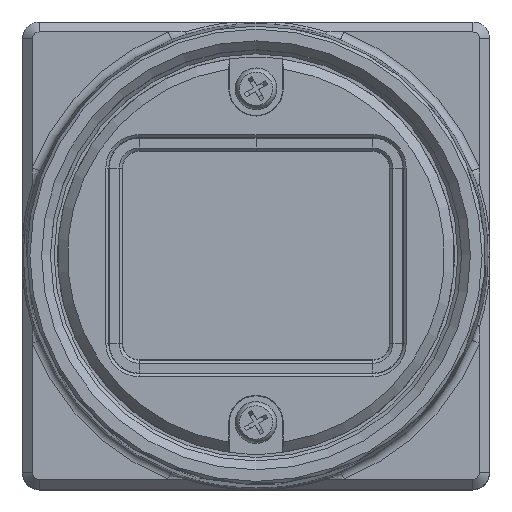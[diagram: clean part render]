
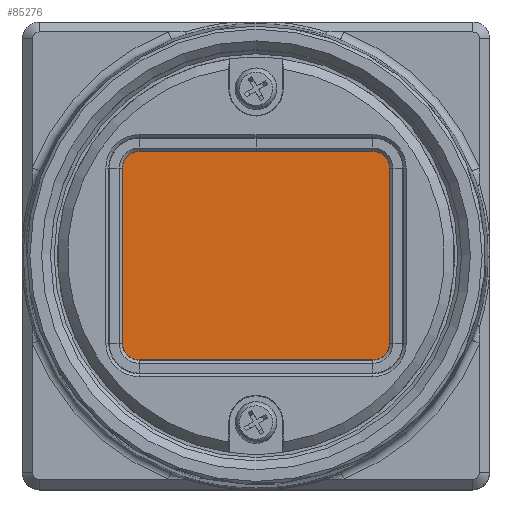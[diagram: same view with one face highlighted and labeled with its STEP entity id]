
A CAD part, top view. The second image highlights one B-rep face of the part: STEP entity #85276.
In plain terms, the highlighted planar face has unit normal (0, 0, 1).
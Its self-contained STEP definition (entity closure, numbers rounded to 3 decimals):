
#205 = VECTOR ( 'NONE', #88995, 1000. ) ;
#11568 = ORIENTED_EDGE ( 'NONE', *, *, #105787, .T. ) ;
#17205 = VECTOR ( 'NONE', #84387, 1000. ) ;
#17221 = DIRECTION ( 'NONE',  ( 0., 0., -1. ) ) ;
#19949 = LINE ( 'NONE', #115892, #118050 ) ;
#25481 = CARTESIAN_POINT ( 'NONE',  ( 9., -7.25, 6. ) ) ;
#28578 = CARTESIAN_POINT ( 'NONE',  ( 0., 0., 6. ) ) ;
#29140 = AXIS2_PLACEMENT_3D ( 'NONE', #28578, #17221, #93424 ) ;
#38221 = DIRECTION ( 'NONE',  ( 0., 1., 0. ) ) ;
#39381 = CARTESIAN_POINT ( 'NONE',  ( -9., -7.25, 6. ) ) ;
#46010 = LINE ( 'NONE', #39381, #17205 ) ;
#46745 = ORIENTED_EDGE ( 'NONE', *, *, #133507, .T. ) ;
#46825 = CARTESIAN_POINT ( 'NONE',  ( -9., 7.25, 6. ) ) ;
#50664 = LINE ( 'NONE', #25481, #98109 ) ;
#59976 = CARTESIAN_POINT ( 'NONE',  ( -9., -7.25, 6. ) ) ;
#60757 = VERTEX_POINT ( 'NONE', #73611 ) ;
#62373 = DIRECTION ( 'NONE',  ( 1., 0., 0. ) ) ;
#65506 = FACE_OUTER_BOUND ( 'NONE', #115941, .T. ) ;
#66130 = VERTEX_POINT ( 'NONE', #59976 ) ;
#72082 = CARTESIAN_POINT ( 'NONE',  ( -9., 7.25, 6. ) ) ;
#73611 = CARTESIAN_POINT ( 'NONE',  ( 9., -7.25, 6. ) ) ;
#80253 = VERTEX_POINT ( 'NONE', #72082 ) ;
#84387 = DIRECTION ( 'NONE',  ( 0., -1., 0. ) ) ;
#84817 = EDGE_CURVE ( 'NONE', #66130, #60757, #19949, .T. ) ;
#85276 = ADVANCED_FACE ( 'NONE', ( #65506 ), #125170, .F. ) ;
#88995 = DIRECTION ( 'NONE',  ( -1., 0., 0. ) ) ;
#93424 = DIRECTION ( 'NONE',  ( -1., 0., 0. ) ) ;
#96118 = CARTESIAN_POINT ( 'NONE',  ( 9., 7.25, 6. ) ) ;
#98109 = VECTOR ( 'NONE', #38221, 1000. ) ;
#98635 = ORIENTED_EDGE ( 'NONE', *, *, #84817, .T. ) ;
#102236 = EDGE_CURVE ( 'NONE', #117182, #80253, #132376, .T. ) ;
#105787 = EDGE_CURVE ( 'NONE', #60757, #117182, #50664, .T. ) ;
#115892 = CARTESIAN_POINT ( 'NONE',  ( -9., -7.25, 6. ) ) ;
#115941 = EDGE_LOOP ( 'NONE', ( #11568, #122100, #46745, #98635 ) ) ;
#117182 = VERTEX_POINT ( 'NONE', #96118 ) ;
#118050 = VECTOR ( 'NONE', #62373, 1000. ) ;
#122100 = ORIENTED_EDGE ( 'NONE', *, *, #102236, .T. ) ;
#125170 = PLANE ( 'NONE',  #29140 ) ;
#132376 = LINE ( 'NONE', #46825, #205 ) ;
#133507 = EDGE_CURVE ( 'NONE', #80253, #66130, #46010, .T. ) ;
